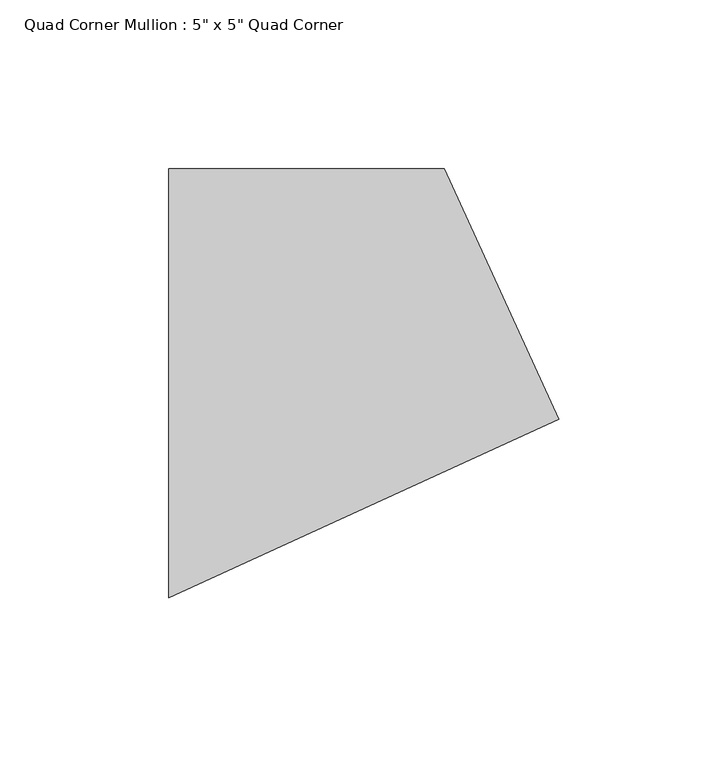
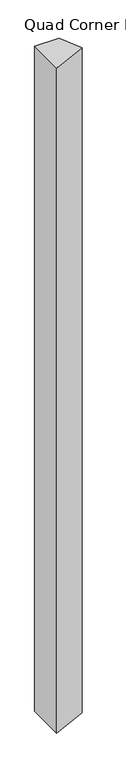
"""IFC4 building model written with IfcOpenShell, lengths in millimetres: member geometry."""

from ifc_helpers import new_model, si_unit, frame, origin, place, context, project, spatial, polyline, outline, extrude, source, transform, mapped, element, save


def member_148ee976(model_context):
    return source(origin(), model_context, "Body", "SweptSolid", [
        extrude(outline(polyline([(74.7078921, -10.6493518), (-40.7728811, -63.5), (-40.7728811, 63.5), (40.7728811, 63.5), (74.7078921, -10.6493518)])), frame((0.0, 0.0, -2353.7521503), z_axis=(0.0, 0.0, 1.0), x_axis=(1.0, 0.0, 0.0)), (0.0, 0.0, 1.0), 2353.7521503),
    ])


if __name__ == "__main__":
    model = new_model("IFC4")
    model_context = context("Model", 3, world=origin())
    ifc_project = project(units=[si_unit("LENGTHUNIT", "METRE", prefix="MILLI")], contexts=[model_context])
    site = spatial("IfcSite", under=ifc_project)
    building = spatial("IfcBuilding", under=site)
    placement = place(None, origin())
    member_shape = member_148ee976(model_context)
    element("IfcMember", 1, ObjectType="Quad Corner Mullion : 5\" x 5\" Quad Corner", at=placement, inside=building, context=model_context, shape_type="MappedRepresentation", body=[
        mapped(member_shape, transform((0.0, 0.0, 0.0), x_axis=(1.0, 0.0, 0.0), y_axis=(0.0, 1.0, 0.0), z_axis=(0.0, 0.0, 1.0))),
    ])
    save(model, "model.ifc")
